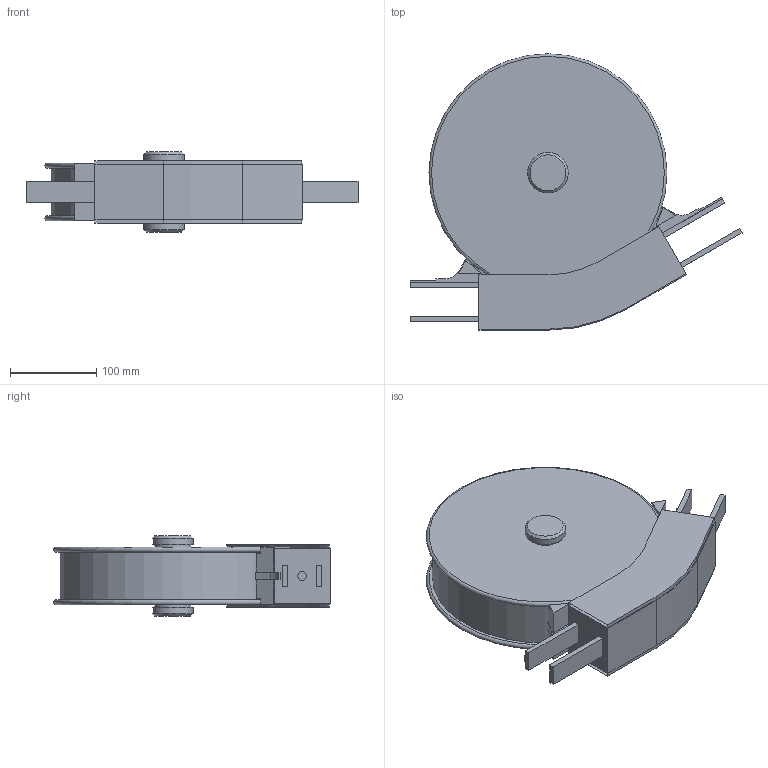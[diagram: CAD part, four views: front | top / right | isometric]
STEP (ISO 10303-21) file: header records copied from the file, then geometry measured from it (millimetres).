
FILE_DESCRIPTION(/* description */ ('Bogenrad 30°'),/* implementation_level */ '2;1');
FILE_NAME(/* name */ 'T:\vdz0\Step Daten Website\modulflex FL-System\Bogenräder\FLBH30R150A_43656.stp',/* time_stamp */ '2024-09-03T09:12:15+02:00',/* author */ ('lzb0'),/* organization */ ('modular automation GmbH'),/* preprocessor_version */ 'ST-DEVELOPER v18.1',/* originating_system */ 'Autodesk Inventor 2021',/* authorisation */ '');
FILE_SCHEMA (('AUTOMOTIVE_DESIGN { 1 0 10303 214 3 1 1 }'));
Length unit declared in the file: millimetre
Products named in the file (1): FLBH 30R150 A
Bounding box: 385.06 x 320.5 x 93 mm (x, y, z)
Volume: 4857649.1 mm3; surface area: 380653 mm2
Topology: 8 solids, 12 shells, 123 faces, 289 edges, 192 vertices
Faces by surface type: plane 104, cylinder 15, cone 2, torus 2
Full cylindrical faces by diameter (mm): 10 x2, 42 x2, 47 x2, 262 x1
Entity records: 3581 total; most frequent: CARTESIAN_POINT 612, DIRECTION 577, ORIENTED_EDGE 558, EDGE_CURVE 289, LINE 251, VECTOR 251, VERTEX_POINT 192, AXIS2_PLACEMENT_3D 163
